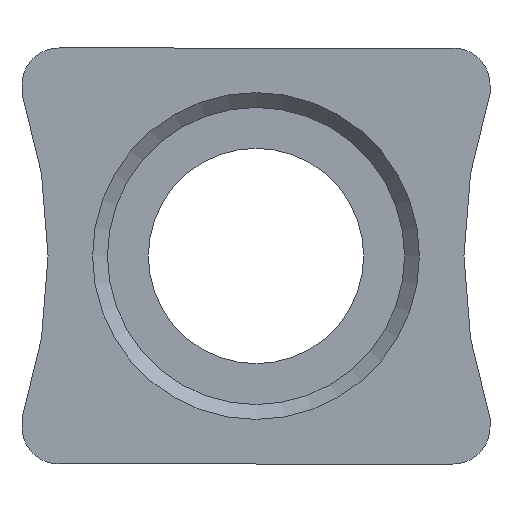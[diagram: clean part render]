
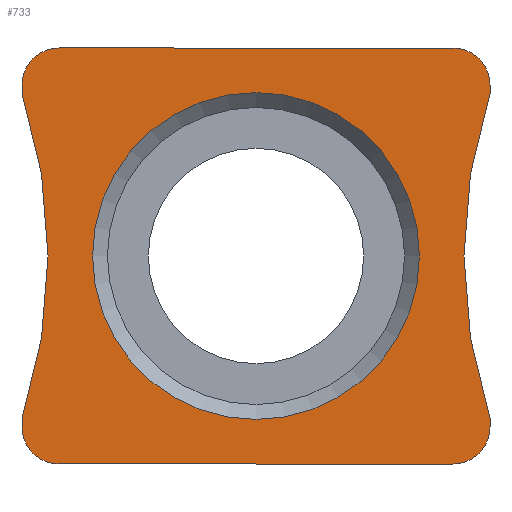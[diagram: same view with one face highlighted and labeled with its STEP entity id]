
A CAD part, left-side view. The second image highlights one B-rep face of the part: STEP entity #733.
In plain terms, the highlighted planar face has unit normal (-1, 0, 0).
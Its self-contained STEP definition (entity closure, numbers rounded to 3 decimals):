
#7 = CARTESIAN_POINT ( 'NONE',  ( 0., -2.65, -2.8 ) ) ;
#12 = LINE ( 'NONE', #275, #566 ) ;
#23 = FACE_OUTER_BOUND ( 'NONE', #553, .T. ) ;
#35 = DIRECTION ( 'NONE',  ( 1., 0., 0. ) ) ;
#64 = EDGE_CURVE ( 'NONE', #965, #895, #363, .T. ) ;
#72 = VERTEX_POINT ( 'NONE', #989 ) ;
#81 = DIRECTION ( 'NONE',  ( 0., 0., -1. ) ) ;
#86 = CARTESIAN_POINT ( 'NONE',  ( 0., -3.15, -2.186 ) ) ;
#108 = DIRECTION ( 'NONE',  ( 0., 0., -1. ) ) ;
#140 = ORIENTED_EDGE ( 'NONE', *, *, #355, .T. ) ;
#149 = CIRCLE ( 'NONE', #667, 0.5 ) ;
#152 = DIRECTION ( 'NONE',  ( 0., 0., 1. ) ) ;
#160 = DIRECTION ( 'NONE',  ( 0., 1., 0. ) ) ;
#164 = CIRCLE ( 'NONE', #912, 0.5 ) ;
#170 = VERTEX_POINT ( 'NONE', #977 ) ;
#178 = VECTOR ( 'NONE', #160, 1000. ) ;
#197 = AXIS2_PLACEMENT_3D ( 'NONE', #284, #35, #451 ) ;
#202 = CARTESIAN_POINT ( 'NONE',  ( 0., 3.15, 2.8 ) ) ;
#203 = DIRECTION ( 'NONE',  ( -1., 0., 0. ) ) ;
#210 = PLANE ( 'NONE',  #197 ) ;
#221 = DIRECTION ( 'NONE',  ( 0., 0., 1. ) ) ;
#226 = CARTESIAN_POINT ( 'NONE',  ( 0., -2.65, 2.8 ) ) ;
#232 = DIRECTION ( 'NONE',  ( -1., 0., 0. ) ) ;
#238 = VECTOR ( 'NONE', #622, 1000. ) ;
#243 = EDGE_CURVE ( 'NONE', #393, #1036, #149, .T. ) ;
#244 = CARTESIAN_POINT ( 'NONE',  ( 0., -3.15, 2.3 ) ) ;
#245 = DIRECTION ( 'NONE',  ( 0., 0., -1. ) ) ;
#255 = EDGE_CURVE ( 'NONE', #654, #1036, #921, .T. ) ;
#259 = DIRECTION ( 'NONE',  ( 1., 0., 0. ) ) ;
#263 = CARTESIAN_POINT ( 'NONE',  ( 0., 2.65, 2.3 ) ) ;
#270 = AXIS2_PLACEMENT_3D ( 'NONE', #871, #203, #431 ) ;
#271 = CARTESIAN_POINT ( 'NONE',  ( 0., -3.15, 2.186 ) ) ;
#275 = CARTESIAN_POINT ( 'NONE',  ( 0., -3.15, 2.8 ) ) ;
#280 = VERTEX_POINT ( 'NONE', #841 ) ;
#284 = CARTESIAN_POINT ( 'NONE',  ( 0., 0., 0. ) ) ;
#290 = CIRCLE ( 'NONE', #429, 0.5 ) ;
#297 = LINE ( 'NONE', #202, #704 ) ;
#329 = CARTESIAN_POINT ( 'NONE',  ( 0., 2.65, -2.3 ) ) ;
#332 = CARTESIAN_POINT ( 'NONE',  ( 0., 3.15, 2.3 ) ) ;
#336 = EDGE_CURVE ( 'NONE', #499, #499, #739, .T. ) ;
#355 = EDGE_CURVE ( 'NONE', #965, #990, #681, .T. ) ;
#363 = LINE ( 'NONE', #709, #466 ) ;
#366 = DIRECTION ( 'NONE',  ( 0., 0., -1. ) ) ;
#373 = EDGE_CURVE ( 'NONE', #654, #72, #290, .T. ) ;
#377 = ORIENTED_EDGE ( 'NONE', *, *, #537, .F. ) ;
#393 = VERTEX_POINT ( 'NONE', #613 ) ;
#426 = EDGE_CURVE ( 'NONE', #280, #170, #1085, .T. ) ;
#429 = AXIS2_PLACEMENT_3D ( 'NONE', #1027, #867, #1033 ) ;
#431 = DIRECTION ( 'NONE',  ( 0., 0., 1. ) ) ;
#437 = DIRECTION ( 'NONE',  ( -1., 0., 0. ) ) ;
#442 = CARTESIAN_POINT ( 'NONE',  ( 0., -2.65, 2.3 ) ) ;
#444 = EDGE_CURVE ( 'NONE', #853, #657, #12, .T. ) ;
#451 = DIRECTION ( 'NONE',  ( 0., 0., -1. ) ) ;
#466 = VECTOR ( 'NONE', #635, 1000. ) ;
#480 = CARTESIAN_POINT ( 'NONE',  ( 0., 3.15, 2.8 ) ) ;
#485 = LINE ( 'NONE', #480, #846 ) ;
#499 = VERTEX_POINT ( 'NONE', #1091 ) ;
#537 = EDGE_CURVE ( 'NONE', #170, #990, #297, .T. ) ;
#553 = EDGE_LOOP ( 'NONE', ( #1049, #952, #755, #140, #377, #833, #1026, #691, #1076, #682, #768, #874 ) ) ;
#566 = VECTOR ( 'NONE', #108, 1000. ) ;
#593 = EDGE_CURVE ( 'NONE', #853, #895, #164, .T. ) ;
#604 = CARTESIAN_POINT ( 'NONE',  ( 0., 3.15, -2.8 ) ) ;
#606 = ORIENTED_EDGE ( 'NONE', *, *, #336, .T. ) ;
#613 = CARTESIAN_POINT ( 'NONE',  ( 0., 3.15, -2.3 ) ) ;
#622 = DIRECTION ( 'NONE',  ( 0., 0., -1. ) ) ;
#625 = VERTEX_POINT ( 'NONE', #86 ) ;
#635 = DIRECTION ( 'NONE',  ( 0., -1., 0. ) ) ;
#650 = CIRCLE ( 'NONE', #652, 7. ) ;
#652 = AXIS2_PLACEMENT_3D ( 'NONE', #995, #232, #152 ) ;
#654 = VERTEX_POINT ( 'NONE', #7 ) ;
#657 = VERTEX_POINT ( 'NONE', #271 ) ;
#667 = AXIS2_PLACEMENT_3D ( 'NONE', #329, #1016, #245 ) ;
#681 = CIRCLE ( 'NONE', #1035, 0.5 ) ;
#682 = ORIENTED_EDGE ( 'NONE', *, *, #373, .T. ) ;
#691 = ORIENTED_EDGE ( 'NONE', *, *, #243, .T. ) ;
#697 = CARTESIAN_POINT ( 'NONE',  ( 0., 2.65, 2.8 ) ) ;
#704 = VECTOR ( 'NONE', #221, 1000. ) ;
#709 = CARTESIAN_POINT ( 'NONE',  ( 0., 3.15, 2.8 ) ) ;
#711 = EDGE_CURVE ( 'NONE', #625, #72, #1058, .T. ) ;
#716 = DIRECTION ( 'NONE',  ( -1., 0., 0. ) ) ;
#733 = ADVANCED_FACE ( 'NONE', ( #820, #23 ), #210, .F. ) ;
#735 = CARTESIAN_POINT ( 'NONE',  ( 0., -3.15, 2.8 ) ) ;
#739 = CIRCLE ( 'NONE', #791, 2.2 ) ;
#755 = ORIENTED_EDGE ( 'NONE', *, *, #64, .F. ) ;
#768 = ORIENTED_EDGE ( 'NONE', *, *, #711, .F. ) ;
#781 = EDGE_LOOP ( 'NONE', ( #606 ) ) ;
#791 = AXIS2_PLACEMENT_3D ( 'NONE', #1023, #259, #937 ) ;
#820 = FACE_BOUND ( 'NONE', #781, .T. ) ;
#827 = EDGE_CURVE ( 'NONE', #393, #280, #485, .T. ) ;
#833 = ORIENTED_EDGE ( 'NONE', *, *, #426, .F. ) ;
#839 = EDGE_CURVE ( 'NONE', #657, #625, #650, .T. ) ;
#841 = CARTESIAN_POINT ( 'NONE',  ( 0., 3.15, -2.186 ) ) ;
#846 = VECTOR ( 'NONE', #1074, 1000. ) ;
#850 = CARTESIAN_POINT ( 'NONE',  ( 0., 2.65, -2.8 ) ) ;
#853 = VERTEX_POINT ( 'NONE', #244 ) ;
#867 = DIRECTION ( 'NONE',  ( -1., 0., 0. ) ) ;
#871 = CARTESIAN_POINT ( 'NONE',  ( 0., 9.8, 0. ) ) ;
#874 = ORIENTED_EDGE ( 'NONE', *, *, #839, .F. ) ;
#895 = VERTEX_POINT ( 'NONE', #226 ) ;
#912 = AXIS2_PLACEMENT_3D ( 'NONE', #442, #437, #81 ) ;
#921 = LINE ( 'NONE', #604, #178 ) ;
#937 = DIRECTION ( 'NONE',  ( 0., 0., -1. ) ) ;
#952 = ORIENTED_EDGE ( 'NONE', *, *, #593, .T. ) ;
#965 = VERTEX_POINT ( 'NONE', #697 ) ;
#977 = CARTESIAN_POINT ( 'NONE',  ( 0., 3.15, 2.186 ) ) ;
#989 = CARTESIAN_POINT ( 'NONE',  ( 0., -3.15, -2.3 ) ) ;
#990 = VERTEX_POINT ( 'NONE', #332 ) ;
#995 = CARTESIAN_POINT ( 'NONE',  ( 0., -9.8, 0. ) ) ;
#1016 = DIRECTION ( 'NONE',  ( -1., 0., 0. ) ) ;
#1023 = CARTESIAN_POINT ( 'NONE',  ( 0., 0., 0. ) ) ;
#1026 = ORIENTED_EDGE ( 'NONE', *, *, #827, .F. ) ;
#1027 = CARTESIAN_POINT ( 'NONE',  ( 0., -2.65, -2.3 ) ) ;
#1033 = DIRECTION ( 'NONE',  ( 0., 0., -1. ) ) ;
#1035 = AXIS2_PLACEMENT_3D ( 'NONE', #263, #716, #366 ) ;
#1036 = VERTEX_POINT ( 'NONE', #850 ) ;
#1049 = ORIENTED_EDGE ( 'NONE', *, *, #444, .F. ) ;
#1058 = LINE ( 'NONE', #735, #238 ) ;
#1074 = DIRECTION ( 'NONE',  ( 0., 0., 1. ) ) ;
#1076 = ORIENTED_EDGE ( 'NONE', *, *, #255, .F. ) ;
#1085 = CIRCLE ( 'NONE', #270, 7. ) ;
#1091 = CARTESIAN_POINT ( 'NONE',  ( 0., 0., -2.2 ) ) ;
